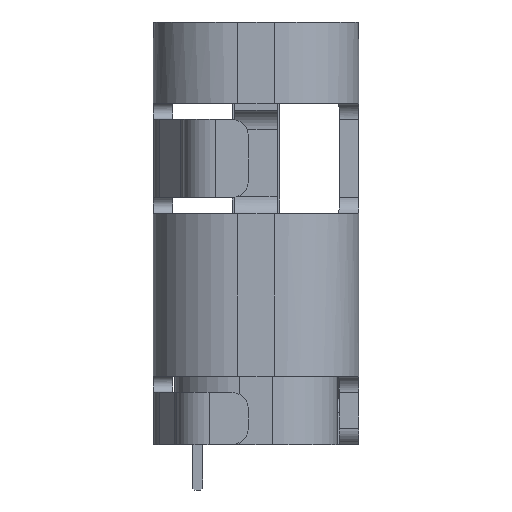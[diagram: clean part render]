
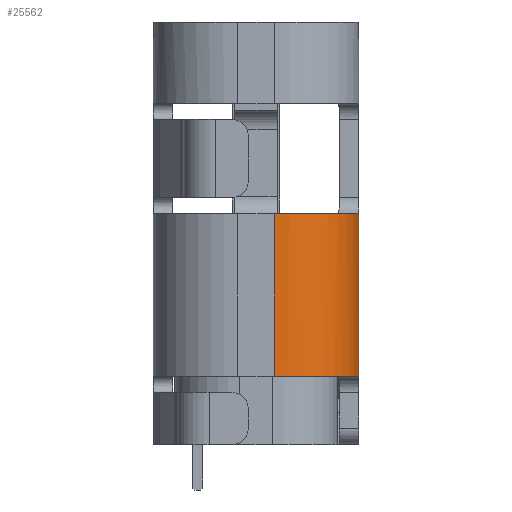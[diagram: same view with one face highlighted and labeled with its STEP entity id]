
A CAD part, left-side view. The second image highlights one B-rep face of the part: STEP entity #25562.
In plain terms, the highlighted cylindrical face has radius 1.3 mm (diameter 2.6 mm), a partial arc.
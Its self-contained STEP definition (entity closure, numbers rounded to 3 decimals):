
#1171 = EDGE_CURVE ( 'NONE', #18848, #22617, #6583, .T. ) ;
#3488 = B_SPLINE_CURVE_WITH_KNOTS ( 'NONE', 3,
 ( #4194, #21186, #9493, #9151, #4360, #11891, #6297 ),
 .UNSPECIFIED., .F., .F.,
 ( 4, 1, 1, 1, 4 ),
 ( 0., 0.25, 0.5, 0.75, 1. ),
 .UNSPECIFIED. ) ;
#3601 = DIRECTION ( 'NONE',  ( -1., 0., 0. ) ) ;
#3925 = LINE ( 'NONE', #6354, #5601 ) ;
#4068 = CARTESIAN_POINT ( 'NONE',  ( -3.42, -1.536, 1.65 ) ) ;
#4194 = CARTESIAN_POINT ( 'NONE',  ( -3.379, -1.543, -0.85 ) ) ;
#4244 = CARTESIAN_POINT ( 'NONE',  ( -3.17, -1.56, 1.881 ) ) ;
#4360 = CARTESIAN_POINT ( 'NONE',  ( -3.208, -1.56, -0.914 ) ) ;
#4550 = VERTEX_POINT ( 'NONE', #11500 ) ;
#5601 = VECTOR ( 'NONE', #27975, 1000. ) ;
#5778 = VERTEX_POINT ( 'NONE', #20792 ) ;
#6297 = CARTESIAN_POINT ( 'NONE',  ( -3.17, -1.56, -0.963 ) ) ;
#6345 = CARTESIAN_POINT ( 'NONE',  ( -4.47, -0.26, 1.65 ) ) ;
#6354 = CARTESIAN_POINT ( 'NONE',  ( -3.17, -1.56, -0.963 ) ) ;
#6565 = EDGE_CURVE ( 'NONE', #4550, #27648, #29691, .T. ) ;
#6582 = CARTESIAN_POINT ( 'NONE',  ( -3.379, -1.543, -0.85 ) ) ;
#6583 = CIRCLE ( 'NONE', #21931, 1.3 ) ;
#6926 = EDGE_CURVE ( 'NONE', #4550, #18848, #26016, .T. ) ;
#7179 = EDGE_CURVE ( 'NONE', #15275, #5778, #3925, .T. ) ;
#7898 = EDGE_CURVE ( 'NONE', #5778, #27648, #8544, .T. ) ;
#8284 = ORIENTED_EDGE ( 'NONE', *, *, #7179, .T. ) ;
#8480 = EDGE_LOOP ( 'NONE', ( #19165, #15345, #17405, #8284, #20139, #11874 ) ) ;
#8544 = B_SPLINE_CURVE_WITH_KNOTS ( 'NONE', 3,
 ( #9045, #4244, #20903, #31301, #11131, #9201, #9378, #16232, #28418, #4068 ),
 .UNSPECIFIED., .F., .F.,
 ( 4, 1, 1, 1, 1, 1, 1, 4 ),
 ( 0., 0.143, 0.286, 0.429, 0.571, 0.714, 0.857, 1. ),
 .UNSPECIFIED. ) ;
#8678 = VECTOR ( 'NONE', #28422, 1000. ) ;
#9045 = CARTESIAN_POINT ( 'NONE',  ( -3.17, -1.56, 1.9 ) ) ;
#9151 = CARTESIAN_POINT ( 'NONE',  ( -3.259, -1.557, -0.878 ) ) ;
#9201 = CARTESIAN_POINT ( 'NONE',  ( -3.263, -1.557, 1.702 ) ) ;
#9378 = CARTESIAN_POINT ( 'NONE',  ( -3.311, -1.553, 1.673 ) ) ;
#9493 = CARTESIAN_POINT ( 'NONE',  ( -3.317, -1.552, -0.855 ) ) ;
#9646 = DIRECTION ( 'NONE',  ( 0., 0., 1. ) ) ;
#10277 = AXIS2_PLACEMENT_3D ( 'NONE', #28262, #22980, #3601 ) ;
#11131 = CARTESIAN_POINT ( 'NONE',  ( -3.223, -1.559, 1.742 ) ) ;
#11218 = EDGE_CURVE ( 'NONE', #22617, #15275, #3488, .T. ) ;
#11500 = CARTESIAN_POINT ( 'NONE',  ( -4.47, -0.26, 1.65 ) ) ;
#11608 = CARTESIAN_POINT ( 'NONE',  ( -3.42, -1.536, 1.65 ) ) ;
#11874 = ORIENTED_EDGE ( 'NONE', *, *, #6565, .F. ) ;
#11891 = CARTESIAN_POINT ( 'NONE',  ( -3.181, -1.56, -0.946 ) ) ;
#13296 = DIRECTION ( 'NONE',  ( 1., 0., 0. ) ) ;
#15275 = VERTEX_POINT ( 'NONE', #20702 ) ;
#15288 = AXIS2_PLACEMENT_3D ( 'NONE', #20975, #23234, #13296 ) ;
#15345 = ORIENTED_EDGE ( 'NONE', *, *, #1171, .T. ) ;
#15550 = FACE_OUTER_BOUND ( 'NONE', #8480, .T. ) ;
#16232 = CARTESIAN_POINT ( 'NONE',  ( -3.364, -1.546, 1.654 ) ) ;
#17405 = ORIENTED_EDGE ( 'NONE', *, *, #11218, .T. ) ;
#18256 = CYLINDRICAL_SURFACE ( 'NONE', #15288, 1.3 ) ;
#18848 = VERTEX_POINT ( 'NONE', #20314 ) ;
#19165 = ORIENTED_EDGE ( 'NONE', *, *, #6926, .T. ) ;
#19590 = DIRECTION ( 'NONE',  ( -1., 0., 0. ) ) ;
#20139 = ORIENTED_EDGE ( 'NONE', *, *, #7898, .T. ) ;
#20314 = CARTESIAN_POINT ( 'NONE',  ( -4.47, -0.26, -0.85 ) ) ;
#20702 = CARTESIAN_POINT ( 'NONE',  ( -3.17, -1.56, -0.963 ) ) ;
#20792 = CARTESIAN_POINT ( 'NONE',  ( -3.17, -1.56, 1.9 ) ) ;
#20903 = CARTESIAN_POINT ( 'NONE',  ( -3.174, -1.56, 1.844 ) ) ;
#20975 = CARTESIAN_POINT ( 'NONE',  ( -3.17, -0.26, 4.6 ) ) ;
#21186 = CARTESIAN_POINT ( 'NONE',  ( -3.359, -1.546, -0.85 ) ) ;
#21931 = AXIS2_PLACEMENT_3D ( 'NONE', #26468, #9646, #19590 ) ;
#22617 = VERTEX_POINT ( 'NONE', #6582 ) ;
#22980 = DIRECTION ( 'NONE',  ( 0., 0., 1. ) ) ;
#23234 = DIRECTION ( 'NONE',  ( 0., 0., 1. ) ) ;
#25562 = ADVANCED_FACE ( 'NONE', ( #15550 ), #18256, .T. ) ;
#26016 = LINE ( 'NONE', #6345, #8678 ) ;
#26468 = CARTESIAN_POINT ( 'NONE',  ( -3.17, -0.26, -0.85 ) ) ;
#27648 = VERTEX_POINT ( 'NONE', #11608 ) ;
#27975 = DIRECTION ( 'NONE',  ( 0., 0., 1. ) ) ;
#28262 = CARTESIAN_POINT ( 'NONE',  ( -3.17, -0.26, 1.65 ) ) ;
#28418 = CARTESIAN_POINT ( 'NONE',  ( -3.401, -1.539, 1.65 ) ) ;
#28422 = DIRECTION ( 'NONE',  ( 0., 0., -1. ) ) ;
#29691 = CIRCLE ( 'NONE', #10277, 1.3 ) ;
#31301 = CARTESIAN_POINT ( 'NONE',  ( -3.193, -1.56, 1.79 ) ) ;
